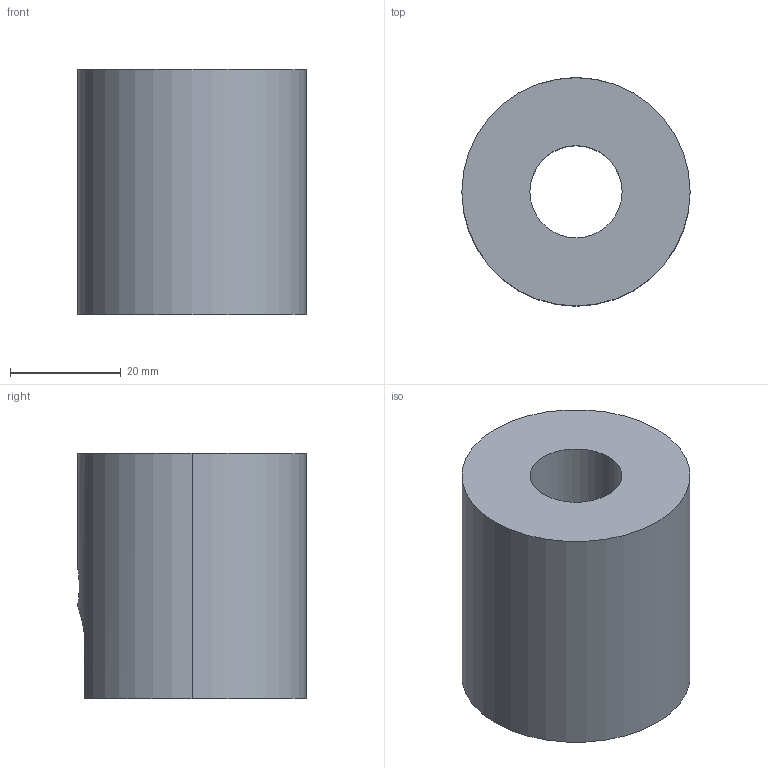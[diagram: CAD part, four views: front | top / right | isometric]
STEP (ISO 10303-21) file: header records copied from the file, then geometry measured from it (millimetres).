
FILE_DESCRIPTION (( 'STEP AP203' ), '1' );
FILE_NAME ('269-18-214.STEP', '2020-03-03T18:23:42', ( '' ), ( '' ), 'SwSTEP 2.0', 'SolidWorks 2017', '' );
FILE_SCHEMA (( 'CONFIG_CONTROL_DESIGN' ));
Length unit declared in the file: inch
Products named in the file (1): 269-18-214
Bounding box: 41.27 x 41.27 x 44.45 mm (x, y, z)
Volume: 37267.8 mm3; surface area: 11282.4 mm2
Topology: 1 solids, 1 shells, 21 faces, 57 edges, 38 vertices
Faces by surface type: cylinder 12, plane 9
Entity records: 863 total; most frequent: CARTESIAN_POINT 229, DIRECTION 118, ORIENTED_EDGE 114, EDGE_CURVE 57, AXIS2_PLACEMENT_3D 43, VERTEX_POINT 38, VECTOR 32, LINE 32
